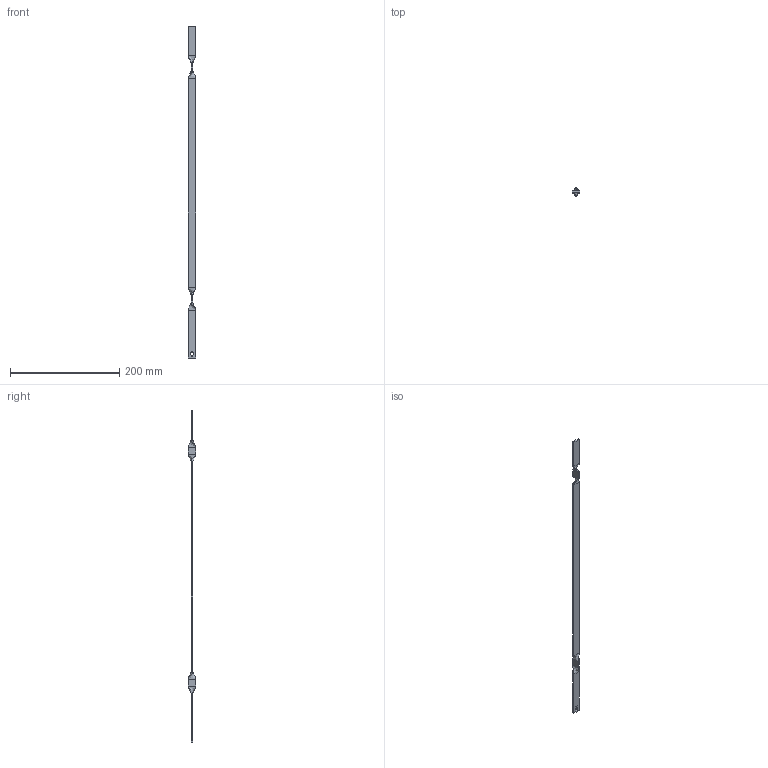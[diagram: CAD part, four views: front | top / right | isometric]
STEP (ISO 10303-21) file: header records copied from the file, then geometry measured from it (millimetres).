
FILE_DESCRIPTION (( 'STEP AP214' ), '1' );
FILE_NAME ('PP290-601.STEP', '2016-09-08T07:51:06', ( '' ), ( '' ), 'SwSTEP 2.0', 'SolidWorks 2015', '' );
FILE_SCHEMA (( 'AUTOMOTIVE_DESIGN' ));
Length unit declared in the file: millimetre
Products named in the file (1): PP290-601
Bounding box: 14 x 14 x 608.5 mm (x, y, z)
Volume: 24807.8 mm3; surface area: 20599.6 mm2
Topology: 1 solids, 1 shells, 46 faces, 100 edges, 56 vertices
Faces by surface type: plane 28, bspline 16, cylinder 2
Entity records: 1502 total; most frequent: CARTESIAN_POINT 555, ORIENTED_EDGE 200, DIRECTION 150, EDGE_CURVE 100, LINE 80, VECTOR 80, VERTEX_POINT 56, EDGE_LOOP 48
